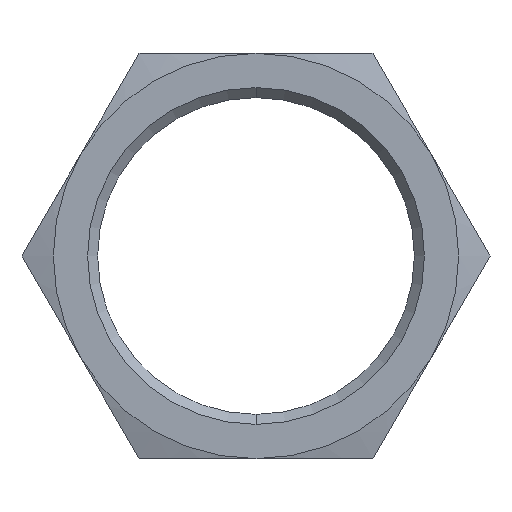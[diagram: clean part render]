
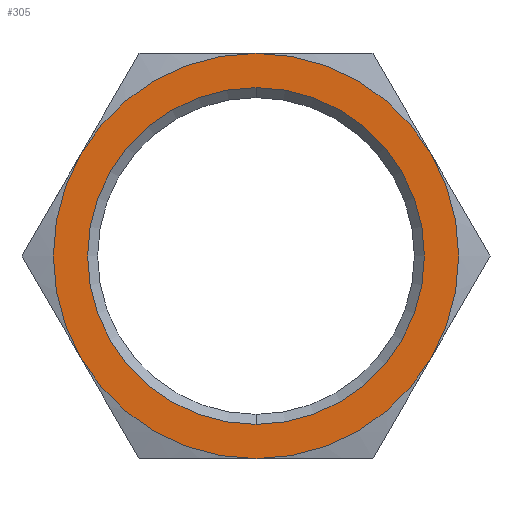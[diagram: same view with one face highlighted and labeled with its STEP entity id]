
A CAD part, left-side view. The second image highlights one B-rep face of the part: STEP entity #305.
In plain terms, the highlighted planar face has unit normal (-1, 0, 0).
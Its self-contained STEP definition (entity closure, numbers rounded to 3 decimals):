
#101 = VERTEX_POINT ( 'NONE', #377 ) ;
#111 = EDGE_CURVE ( 'NONE', #117, #112, #217, .T. ) ;
#112 = VERTEX_POINT ( 'NONE', #208 ) ;
#117 = VERTEX_POINT ( 'NONE', #203 ) ;
#137 = VERTEX_POINT ( 'NONE', #527 ) ;
#156 = VERTEX_POINT ( 'NONE', #608 ) ;
#177 = VERTEX_POINT ( 'NONE', #484 ) ;
#189 = EDGE_CURVE ( 'NONE', #137, #101, #455, .T. ) ;
#190 = ORIENTED_EDGE ( 'NONE', *, *, #191, .F. ) ;
#191 = EDGE_CURVE ( 'NONE', #293, #137, #450, .T. ) ;
#192 = ORIENTED_EDGE ( 'NONE', *, *, #193, .F. ) ;
#193 = EDGE_CURVE ( 'NONE', #156, #293, #445, .T. ) ;
#203 = CARTESIAN_POINT ( 'NONE',  ( 0., 0., -17.15 ) ) ;
#208 = CARTESIAN_POINT ( 'NONE',  ( 0., 0., 17.15 ) ) ;
#209 = DIRECTION ( 'NONE',  ( 0., 0., 1. ) ) ;
#210 = DIRECTION ( 'NONE',  ( -1., 0., 0. ) ) ;
#211 = CARTESIAN_POINT ( 'NONE',  ( 0., 0., 0. ) ) ;
#212 = AXIS2_PLACEMENT_3D ( 'NONE', #211, #210, #209 ) ;
#217 = CIRCLE ( 'NONE', #212, 17.15 ) ;
#260 = ORIENTED_EDGE ( 'NONE', *, *, #261, .F. ) ;
#261 = EDGE_CURVE ( 'NONE', #360, #156, #572, .T. ) ;
#262 = ORIENTED_EDGE ( 'NONE', *, *, #263, .T. ) ;
#263 = EDGE_CURVE ( 'NONE', #360, #177, #568, .T. ) ;
#264 = ORIENTED_EDGE ( 'NONE', *, *, #265, .F. ) ;
#265 = EDGE_CURVE ( 'NONE', #101, #177, #563, .T. ) ;
#293 = VERTEX_POINT ( 'NONE', #830 ) ;
#305 = ADVANCED_FACE ( 'NONE', ( #801, #799 ), #798, .F. ) ;
#306 = EDGE_LOOP ( 'NONE', ( #307, #309 ) ) ;
#307 = ORIENTED_EDGE ( 'NONE', *, *, #308, .F. ) ;
#308 = EDGE_CURVE ( 'NONE', #112, #117, #787, .T. ) ;
#309 = ORIENTED_EDGE ( 'NONE', *, *, #111, .F. ) ;
#310 = EDGE_LOOP ( 'NONE', ( #311, #190, #192, #260, #262, #264 ) ) ;
#311 = ORIENTED_EDGE ( 'NONE', *, *, #189, .F. ) ;
#360 = VERTEX_POINT ( 'NONE', #692 ) ;
#377 = CARTESIAN_POINT ( 'NONE',  ( 0., 17.875, -10.32 ) ) ;
#441 = DIRECTION ( 'NONE',  ( 0., 0., -1. ) ) ;
#442 = DIRECTION ( 'NONE',  ( 1., 0., 0. ) ) ;
#443 = CARTESIAN_POINT ( 'NONE',  ( 0., 0., 0. ) ) ;
#444 = AXIS2_PLACEMENT_3D ( 'NONE', #443, #442, #441 ) ;
#445 = CIRCLE ( 'NONE', #444, 20.64 ) ;
#446 = DIRECTION ( 'NONE',  ( 0., 0., -1. ) ) ;
#447 = DIRECTION ( 'NONE',  ( 1., 0., 0. ) ) ;
#448 = CARTESIAN_POINT ( 'NONE',  ( 0., 0., 0. ) ) ;
#449 = AXIS2_PLACEMENT_3D ( 'NONE', #448, #447, #446 ) ;
#450 = CIRCLE ( 'NONE', #449, 20.64 ) ;
#451 = DIRECTION ( 'NONE',  ( 0., 0., -1. ) ) ;
#452 = DIRECTION ( 'NONE',  ( 1., 0., 0. ) ) ;
#453 = CARTESIAN_POINT ( 'NONE',  ( 0., 0., 0. ) ) ;
#454 = AXIS2_PLACEMENT_3D ( 'NONE', #453, #452, #451 ) ;
#455 = CIRCLE ( 'NONE', #454, 20.64 ) ;
#484 = CARTESIAN_POINT ( 'NONE',  ( 0., 17.875, 10.32 ) ) ;
#527 = CARTESIAN_POINT ( 'NONE',  ( 0., 0., -20.64 ) ) ;
#559 = DIRECTION ( 'NONE',  ( 0., 0., -1. ) ) ;
#560 = DIRECTION ( 'NONE',  ( 1., 0., 0. ) ) ;
#561 = CARTESIAN_POINT ( 'NONE',  ( 0., 0., 0. ) ) ;
#562 = AXIS2_PLACEMENT_3D ( 'NONE', #561, #560, #559 ) ;
#563 = CIRCLE ( 'NONE', #562, 20.64 ) ;
#564 = DIRECTION ( 'NONE',  ( 0., 0., 1. ) ) ;
#565 = DIRECTION ( 'NONE',  ( -1., 0., 0. ) ) ;
#566 = CARTESIAN_POINT ( 'NONE',  ( 0., 0., 0. ) ) ;
#567 = AXIS2_PLACEMENT_3D ( 'NONE', #566, #565, #564 ) ;
#568 = CIRCLE ( 'NONE', #567, 20.64 ) ;
#569 = DIRECTION ( 'NONE',  ( 0., 0., -1. ) ) ;
#570 = DIRECTION ( 'NONE',  ( 1., 0., 0. ) ) ;
#571 = AXIS2_PLACEMENT_3D ( 'NONE', #573, #570, #569 ) ;
#572 = CIRCLE ( 'NONE', #571, 20.64 ) ;
#573 = CARTESIAN_POINT ( 'NONE',  ( 0., 0., 0. ) ) ;
#608 = CARTESIAN_POINT ( 'NONE',  ( 0., -17.875, 10.32 ) ) ;
#692 = CARTESIAN_POINT ( 'NONE',  ( 0., 0., 20.64 ) ) ;
#783 = DIRECTION ( 'NONE',  ( 0., 0., 1. ) ) ;
#784 = DIRECTION ( 'NONE',  ( -1., 0., 0. ) ) ;
#785 = CARTESIAN_POINT ( 'NONE',  ( 0., 0., 0. ) ) ;
#786 = AXIS2_PLACEMENT_3D ( 'NONE', #785, #784, #783 ) ;
#787 = CIRCLE ( 'NONE', #786, 17.15 ) ;
#788 = DIRECTION ( 'NONE',  ( 0., 0., -1. ) ) ;
#789 = DIRECTION ( 'NONE',  ( 1., 0., 0. ) ) ;
#790 = AXIS2_PLACEMENT_3D ( 'NONE', #797, #789, #788 ) ;
#797 = CARTESIAN_POINT ( 'NONE',  ( 0., 0., -49.188 ) ) ;
#798 = PLANE ( 'NONE',  #790 ) ;
#799 = FACE_OUTER_BOUND ( 'NONE', #310, .T. ) ;
#801 = FACE_BOUND ( 'NONE', #306, .T. ) ;
#830 = CARTESIAN_POINT ( 'NONE',  ( 0., -17.875, -10.32 ) ) ;
